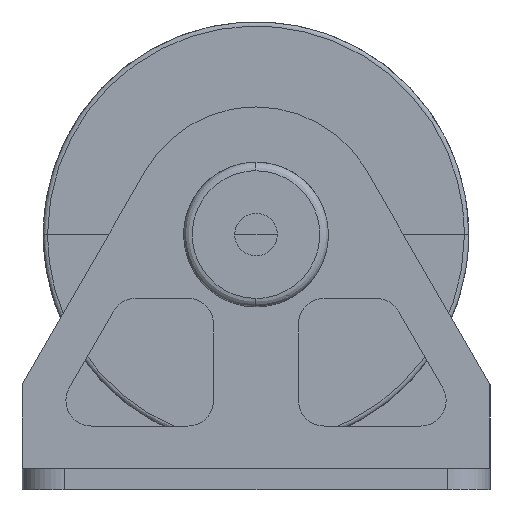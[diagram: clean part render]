
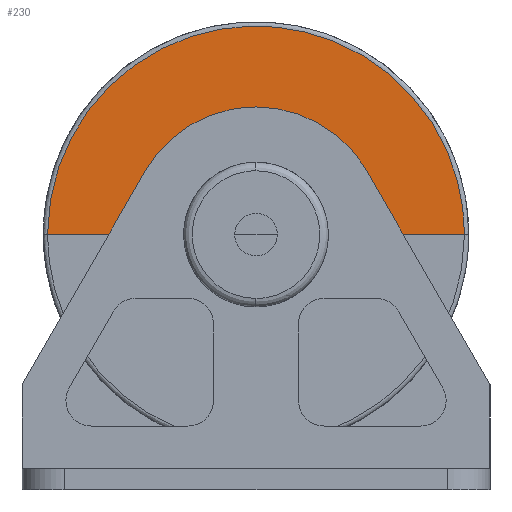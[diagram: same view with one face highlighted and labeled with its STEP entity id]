
A CAD part, left-side view. The second image highlights one B-rep face of the part: STEP entity #230.
In plain terms, the highlighted free-form (B-spline) face has degree [1, 2] with [2, 5] control points.
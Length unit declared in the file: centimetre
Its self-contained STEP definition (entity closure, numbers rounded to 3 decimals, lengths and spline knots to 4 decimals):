
#230=ADVANCED_FACE($,(#530),#3623,.T.);
#530=FACE_OUTER_BOUND($,#834,.T.);
#834=EDGE_LOOP($,(#1341,#1342,#1343,#1344));
#1341=ORIENTED_EDGE($,*,*,#2560,.F.);
#1342=ORIENTED_EDGE($,*,*,#2561,.T.);
#1343=ORIENTED_EDGE($,*,*,#2592,.F.);
#1344=ORIENTED_EDGE($,*,*,#2590,.F.);
#2560=EDGE_CURVE($,#3178,#3193,#11006,.T.);
#2561=EDGE_CURVE($,#3178,#3185,#3872,.T.);
#2590=EDGE_CURVE($,#3193,#3194,#3886,.T.);
#2592=EDGE_CURVE($,#3194,#3185,#3887,.T.);
#3178=VERTEX_POINT($,#6741);
#3185=VERTEX_POINT($,#6748);
#3193=VERTEX_POINT($,#6756);
#3194=VERTEX_POINT($,#6757);
#3623=(
BOUNDED_SURFACE()
B_SPLINE_SURFACE(1,2,((#6304,#6305,#6306,#6307,#6308),(#6309,#6310,#6311,
#6312,#6313)),.UNSPECIFIED.,.F.,.F.,.F.)
B_SPLINE_SURFACE_WITH_KNOTS((2,2),(3,2,3),(0.,32.5),(0.,1.5708,
3.1416),.UNSPECIFIED.)
GEOMETRIC_REPRESENTATION_ITEM()
RATIONAL_B_SPLINE_SURFACE(((1.,0.707,1.,0.707,1.),
(1.,0.707,1.,0.707,1.)))
REPRESENTATION_ITEM($)
SURFACE()
);
#3872=B_SPLINE_CURVE_WITH_KNOTS($,1,(#6030,#6031),.UNSPECIFIED.,.F.,.F.,
(2,2),(0.,32.5),.UNSPECIFIED.);
#3886=B_SPLINE_CURVE_WITH_KNOTS($,1,(#6163,#6164),.UNSPECIFIED.,.F.,.F.,
(2,2),(0.,32.5),.UNSPECIFIED.);
#3887=B_SPLINE_CURVE_WITH_KNOTS($,3,(#6170,#6171,#6172,#6173,#6174,#6175,
#6176,#6177,#6178,#6179,#6180),.UNSPECIFIED.,.F.,.F.,(4,1,1,1,1,1,1,1,4),
(51.8362,58.3157,64.7952,71.2748,77.7543,
84.2338,90.7133,97.1929,103.6724),.UNSPECIFIED.);
#6025=CARTESIAN_POINT($,(-127.8728,-65.0382,101.));
#6026=CARTESIAN_POINT($,(-127.8728,-65.0382,150.));
#6027=CARTESIAN_POINT($,(-127.8728,-114.0382,150.));
#6028=CARTESIAN_POINT($,(-127.8728,-163.0382,150.));
#6029=CARTESIAN_POINT($,(-127.8728,-163.0382,101.));
#6030=CARTESIAN_POINT($,(-127.8728,-65.0382,101.));
#6031=CARTESIAN_POINT($,(-127.8728,-97.5382,101.));
#6163=CARTESIAN_POINT($,(-127.8728,-163.0382,101.));
#6164=CARTESIAN_POINT($,(-127.8728,-130.5382,101.));
#6170=CARTESIAN_POINT($,(-127.8728,-130.5387,101.));
#6171=CARTESIAN_POINT($,(-127.8728,-130.5387,103.1596));
#6172=CARTESIAN_POINT($,(-127.8728,-129.6796,107.4788));
#6173=CARTESIAN_POINT($,(-127.8728,-126.0095,112.9716));
#6174=CARTESIAN_POINT($,(-127.8728,-120.5171,116.6413));
#6175=CARTESIAN_POINT($,(-127.8728,-114.0381,117.9302));
#6176=CARTESIAN_POINT($,(-127.8728,-107.5594,116.6413));
#6177=CARTESIAN_POINT($,(-127.8728,-102.0665,112.9715));
#6178=CARTESIAN_POINT($,(-127.8728,-98.3972,107.4788));
#6179=CARTESIAN_POINT($,(-127.8728,-97.5369,103.1597));
#6180=CARTESIAN_POINT($,(-127.8728,-97.5382,101.));
#6304=CARTESIAN_POINT($,(-127.8728,-65.0382,101.));
#6305=CARTESIAN_POINT($,(-127.8728,-65.0382,150.));
#6306=CARTESIAN_POINT($,(-127.8728,-114.0382,150.));
#6307=CARTESIAN_POINT($,(-127.8728,-163.0382,150.));
#6308=CARTESIAN_POINT($,(-127.8728,-163.0382,101.));
#6309=CARTESIAN_POINT($,(-127.8728,-97.5382,101.));
#6310=CARTESIAN_POINT($,(-127.8728,-97.5382,117.5));
#6311=CARTESIAN_POINT($,(-127.8728,-114.0382,117.5));
#6312=CARTESIAN_POINT($,(-127.8728,-130.5382,117.5));
#6313=CARTESIAN_POINT($,(-127.8728,-130.5382,101.));
#6741=CARTESIAN_POINT($,(-127.8728,-65.0382,101.));
#6748=CARTESIAN_POINT($,(-127.8728,-97.5382,101.));
#6756=CARTESIAN_POINT($,(-127.8728,-163.0382,101.));
#6757=CARTESIAN_POINT($,(-127.8728,-130.5382,101.));
#11006=(
BOUNDED_CURVE()
B_SPLINE_CURVE(2,(#6025,#6026,#6027,#6028,#6029),.UNSPECIFIED.,.F.,.F.)
B_SPLINE_CURVE_WITH_KNOTS((3,2,3),(0.,1.5708,3.1416),
.UNSPECIFIED.)
CURVE()
GEOMETRIC_REPRESENTATION_ITEM()
RATIONAL_B_SPLINE_CURVE((1.,0.707,1.,0.707,1.))
REPRESENTATION_ITEM($)
);
